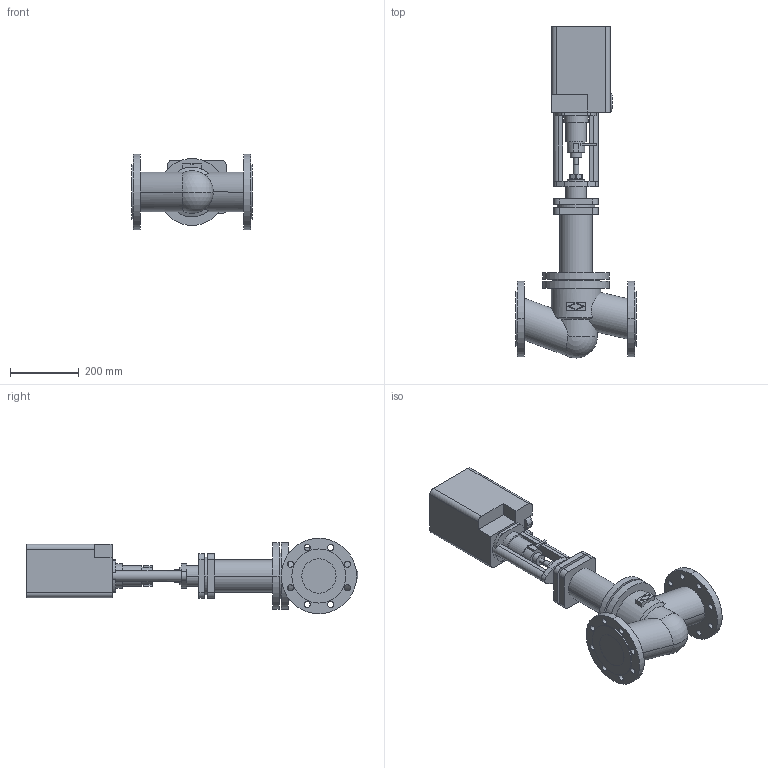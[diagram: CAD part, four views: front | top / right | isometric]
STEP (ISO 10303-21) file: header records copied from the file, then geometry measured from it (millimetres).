
FILE_DESCRIPTION(('CoCreate Modeling STEP Export'),'2;1');
FILE_NAME('c000000372.stp','2011-10-12T 7:50:07',(''),(''),'CoCreate Modeling STEP processor for AP214 (Solid Model)','CoCreate Modeling 17.0 01-Apr-2010 (C) Parametric Technology GmbH','');
FILE_SCHEMA(('AUTOMOTIVE_DESIGN { 1 0 10303 214 1 1 1 1 }'));
Length unit declared in the file: millimetre
Products named in the file (2): 1; 2
Bounding box: 350 x 968.17 x 220 mm (x, y, z)
Volume: 16732801.1 mm3; surface area: 832978.2 mm2
Topology: 2 solids, 2 shells, 230 faces, 582 edges, 384 vertices
Faces by surface type: cylinder 117, plane 101, sphere 6, torus 4, cone 2
Entity records: 8527 total; most frequent: CARTESIAN_POINT 1362, ORIENTED_EDGE 1160, DIRECTION 1012, EDGE_CURVE 580, VERTEX_POINT 384, AXIS2_PLACEMENT_3D 355, VECTOR 302, LINE 302
